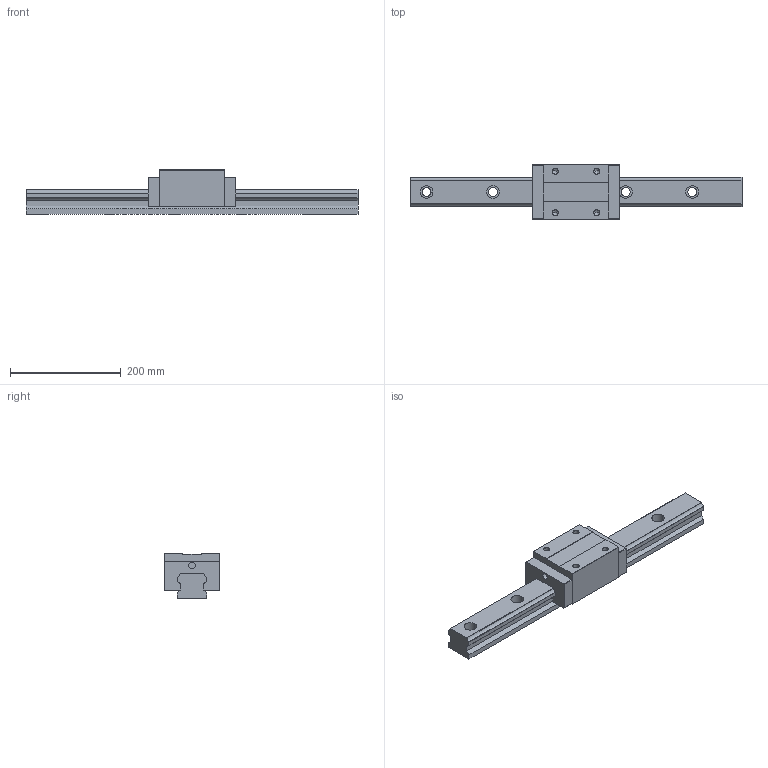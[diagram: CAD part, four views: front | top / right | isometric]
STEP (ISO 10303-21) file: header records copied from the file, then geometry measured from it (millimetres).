
FILE_DESCRIPTION (( 'STEP AP203' ), '1' );
FILE_NAME ('TRH55VL-XNC.STEP', '2024-08-16T06:54:52', ( '' ), ( '' ), 'SwSTEP 2.0', 'SolidWorks 2021', '' );
FILE_SCHEMA (( 'CONFIG_CONTROL_DESIGN' ));
Length unit declared in the file: millimetre
Products named in the file (1): TRH55VL-XNC
Bounding box: 600 x 100 x 80 mm (x, y, z)
Volume: 1948371.6 mm3; surface area: 203307.8 mm2
Topology: 1 solids, 1 shells, 160 faces, 440 edges, 282 vertices
Faces by surface type: plane 76, cylinder 68, cone 16
Entity records: 5139 total; most frequent: DIRECTION 900, CARTESIAN_POINT 875, ORIENTED_EDGE 864, EDGE_CURVE 432, AXIS2_PLACEMENT_3D 307, VECTOR 286, LINE 286, VERTEX_POINT 282
